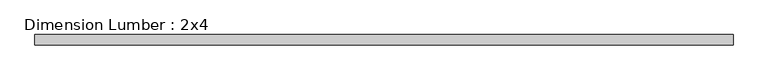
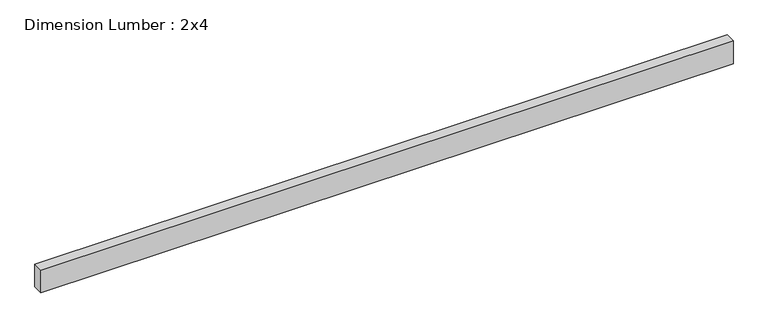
"""IFC4 building model written with IfcOpenShell, lengths in millimetres: beam geometry, Dimension Lumber : 2x4."""

from ifc_helpers import new_model, si_unit, frame, origin, place, context, project, spatial, polyline, outline, extrude, source, transform, mapped, element, save


def dimension_lumber_2x4_33c45149(model_context):
    return source(origin(), model_context, "Body", "SweptSolid", [
        extrude(outline(polyline([(1279.525, 19.05), (1279.525, -19.05), (-1279.525, -19.05), (-1279.525, 19.05), (1279.525, 19.05)])), frame((0.0, 0.0, -44.45), z_axis=(0.0, 0.0, 1.0), x_axis=(1.0, 0.0, 0.0)), (0.0, 0.0, 1.0), 88.9),
    ])


if __name__ == "__main__":
    model = new_model("IFC4")
    model_context = context("Model", 3, world=origin())
    ifc_project = project(units=[si_unit("LENGTHUNIT", "METRE", prefix="MILLI")], contexts=[model_context])
    site = spatial("IfcSite", under=ifc_project)
    building = spatial("IfcBuilding", under=site)
    placement = place(None, origin())
    dimension_lumber_2x4_shape = dimension_lumber_2x4_33c45149(model_context)
    element("IfcBeam", 1, ObjectType="Dimension Lumber : 2x4", at=placement, inside=building, context=model_context, shape_type="MappedRepresentation", body=[
        mapped(dimension_lumber_2x4_shape, transform((0.0, 0.0, 0.0), x_axis=(1.0, 0.0, 0.0), y_axis=(0.0, 1.0, 0.0), z_axis=(0.0, 0.0, 1.0))),
    ])
    save(model, "model.ifc")
